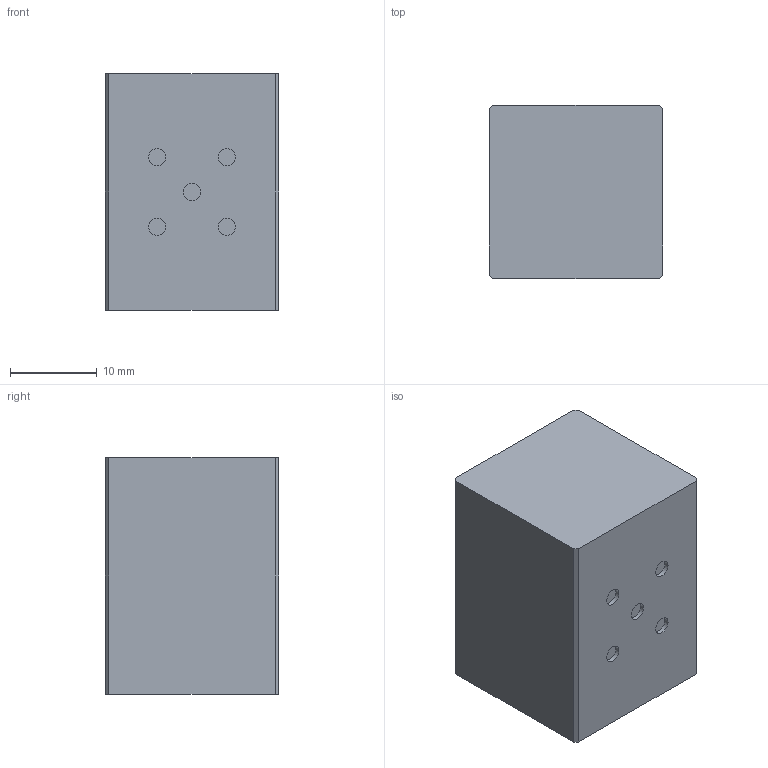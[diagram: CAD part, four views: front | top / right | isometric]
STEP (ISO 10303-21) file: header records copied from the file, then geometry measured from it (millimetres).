
FILE_DESCRIPTION(('Open CASCADE Model'),'2;1');
FILE_NAME('Open CASCADE Shape Model','2026-08-23T08:04:38',('Author'),( 'Open CASCADE'),'Open CASCADE STEP processor 7.9','Open CASCADE 7.9' ,'Unknown');
FILE_SCHEMA(('AUTOMOTIVE_DESIGN { 1 0 10303 214 1 1 1 1 }'));
Length unit declared in the file: millimetre
Products named in the file (2): =>[0:1:1:2]; COMPOUND
Assembly tree (1 placements, depth 2):
  =>[0:1:1:2]
    COMPOUND
Bounding box: 20 x 20 x 27.25 mm (x, y, z)
Volume: 10883.4 mm3; surface area: 2969.5 mm2
Topology: 1 solids, 1 shells, 20 faces, 39 edges, 26 vertices
Faces by surface type: plane 15, cylinder 5
Full cylindrical faces by diameter (mm): 2 x5
Entity records: 1079 total; most frequent: CARTESIAN_POINT 195, DIRECTION 166, LINE 97, VECTOR 97, ORIENTED_EDGE 78, PCURVE 78, DEFINITIONAL_REPRESENTATION 78, EDGE_CURVE 39
